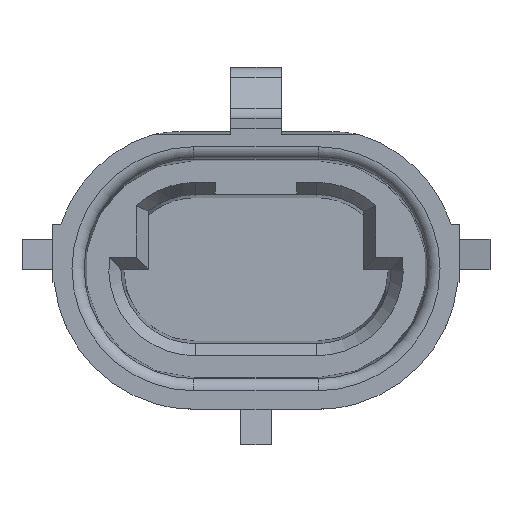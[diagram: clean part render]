
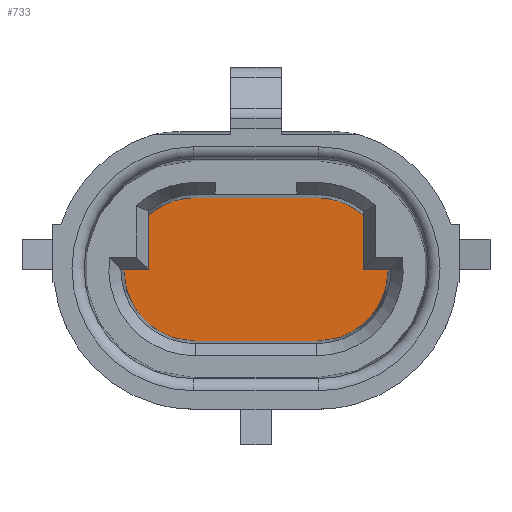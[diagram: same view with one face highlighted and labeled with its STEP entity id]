
A CAD part, top view. The second image highlights one B-rep face of the part: STEP entity #733.
In plain terms, the highlighted planar face has unit normal (0, 0, 1).
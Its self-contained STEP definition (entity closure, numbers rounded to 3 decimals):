
#190=PLANE('',#2209);
#297=LINE('',#3174,#493);
#298=LINE('',#3181,#494);
#323=LINE('',#3291,#519);
#330=LINE('',#3305,#526);
#331=LINE('',#3309,#527);
#332=LINE('',#3311,#528);
#493=VECTOR('',#2448,1.);
#494=VECTOR('',#2451,1.);
#519=VECTOR('',#2550,1.);
#526=VECTOR('',#2559,1.);
#527=VECTOR('',#2564,1.);
#528=VECTOR('',#2565,1.);
#646=CIRCLE('',#2175,3.526);
#651=CIRCLE('',#2185,3.526);
#657=CIRCLE('',#2207,3.526);
#658=CIRCLE('',#2208,3.526);
#733=ADVANCED_FACE('',(#843),#190,.F.);
#843=FACE_OUTER_BOUND('',#951,.T.);
#951=EDGE_LOOP('',(#1247,#1248,#1249,#1250,#1251,#1252,#1253,#1254,#1255,
#1256));
#1247=ORIENTED_EDGE('',*,*,#1951,.F.);
#1248=ORIENTED_EDGE('',*,*,#1952,.F.);
#1249=ORIENTED_EDGE('',*,*,#1953,.T.);
#1250=ORIENTED_EDGE('',*,*,#1954,.F.);
#1251=ORIENTED_EDGE('',*,*,#1955,.F.);
#1252=ORIENTED_EDGE('',*,*,#1944,.T.);
#1253=ORIENTED_EDGE('',*,*,#1904,.T.);
#1254=ORIENTED_EDGE('',*,*,#1895,.T.);
#1255=ORIENTED_EDGE('',*,*,#1893,.F.);
#1256=ORIENTED_EDGE('',*,*,#1914,.T.);
#1681=VERTEX_POINT('',#3171);
#1682=VERTEX_POINT('',#3173);
#1683=VERTEX_POINT('',#3180);
#1690=VERTEX_POINT('',#3199);
#1699=VERTEX_POINT('',#3224);
#1712=VERTEX_POINT('',#3292);
#1717=VERTEX_POINT('',#3304);
#1718=VERTEX_POINT('',#3308);
#1719=VERTEX_POINT('',#3310);
#1720=VERTEX_POINT('',#3312);
#1893=EDGE_CURVE('',#1682,#1681,#297,.T.);
#1895=EDGE_CURVE('',#1683,#1681,#298,.T.);
#1904=EDGE_CURVE('',#1690,#1683,#646,.T.);
#1914=EDGE_CURVE('',#1682,#1699,#651,.T.);
#1944=EDGE_CURVE('',#1712,#1690,#323,.T.);
#1951=EDGE_CURVE('',#1717,#1699,#330,.T.);
#1952=EDGE_CURVE('',#1718,#1717,#657,.T.);
#1953=EDGE_CURVE('',#1718,#1719,#331,.T.);
#1954=EDGE_CURVE('',#1720,#1719,#332,.T.);
#1955=EDGE_CURVE('',#1712,#1720,#658,.T.);
#2175=AXIS2_PLACEMENT_3D('',#3200,#2470,#2471);
#2185=AXIS2_PLACEMENT_3D('',#3225,#2492,#2493);
#2207=AXIS2_PLACEMENT_3D('',#3307,#2562,#2563);
#2208=AXIS2_PLACEMENT_3D('',#3313,#2566,#2567);
#2209=AXIS2_PLACEMENT_3D('',#3314,#2568,#2569);
#2448=DIRECTION('',(1.,0.,0.));
#2451=DIRECTION('',(0.,-1.,0.));
#2470=DIRECTION('',(0.,0.,1.));
#2471=DIRECTION('',(0.,-1.,0.));
#2492=DIRECTION('',(0.,0.,1.));
#2493=DIRECTION('',(0.,-1.,0.));
#2550=DIRECTION('',(-1.,0.,0.));
#2559=DIRECTION('',(-1.,0.,0.));
#2562=DIRECTION('',(0.,0.,-1.));
#2563=DIRECTION('',(0.,-1.,0.));
#2564=DIRECTION('',(-1.,0.,0.));
#2565=DIRECTION('',(0.,-1.,0.));
#2566=DIRECTION('',(0.,0.,-1.));
#2567=DIRECTION('',(0.,-1.,0.));
#2568=DIRECTION('',(0.,0.,-1.));
#2569=DIRECTION('',(0.,-1.,0.));
#3171=CARTESIAN_POINT('',(-5.3,0.,-6.3));
#3173=CARTESIAN_POINT('',(-6.5,0.,-6.3));
#3174=CARTESIAN_POINT('',(0.,0.,-6.3));
#3180=CARTESIAN_POINT('',(-5.3,2.65,-6.3));
#3181=CARTESIAN_POINT('',(-5.3,3.5,-6.3));
#3199=CARTESIAN_POINT('',(-2.974,3.526,-6.3));
#3200=CARTESIAN_POINT('',(-2.974,0.,-6.3));
#3224=CARTESIAN_POINT('',(-2.974,-3.526,-6.3));
#3225=CARTESIAN_POINT('',(-2.974,0.,-6.3));
#3291=CARTESIAN_POINT('',(0.,3.526,-6.3));
#3292=CARTESIAN_POINT('',(2.974,3.526,-6.3));
#3304=CARTESIAN_POINT('',(2.974,-3.526,-6.3));
#3305=CARTESIAN_POINT('',(0.,-3.526,-6.3));
#3307=CARTESIAN_POINT('',(2.974,0.,-6.3));
#3308=CARTESIAN_POINT('',(6.5,0.,-6.3));
#3309=CARTESIAN_POINT('',(0.,0.,-6.3));
#3310=CARTESIAN_POINT('',(5.3,0.,-6.3));
#3311=CARTESIAN_POINT('',(5.3,3.5,-6.3));
#3312=CARTESIAN_POINT('',(5.3,2.65,-6.3));
#3313=CARTESIAN_POINT('',(2.974,0.,-6.3));
#3314=CARTESIAN_POINT('',(0.,3.5,-6.3));
